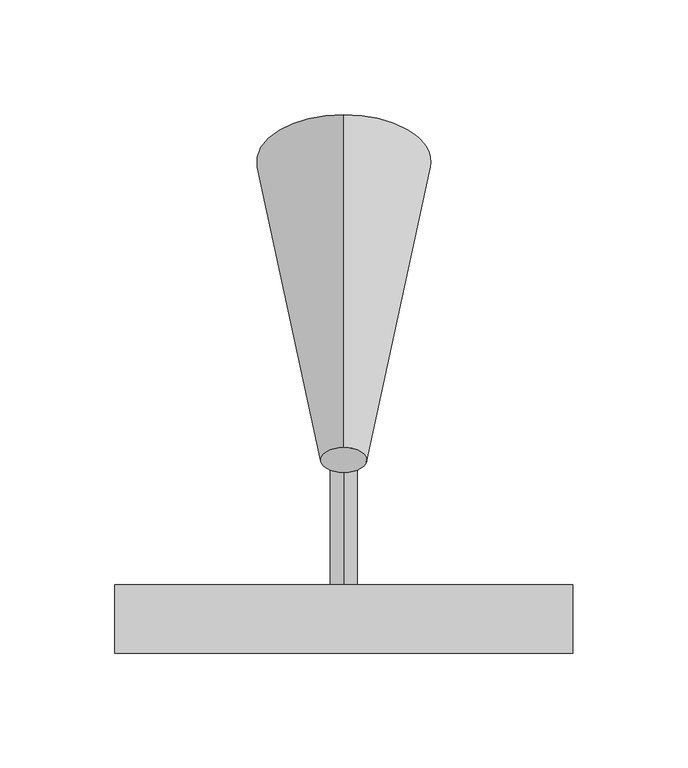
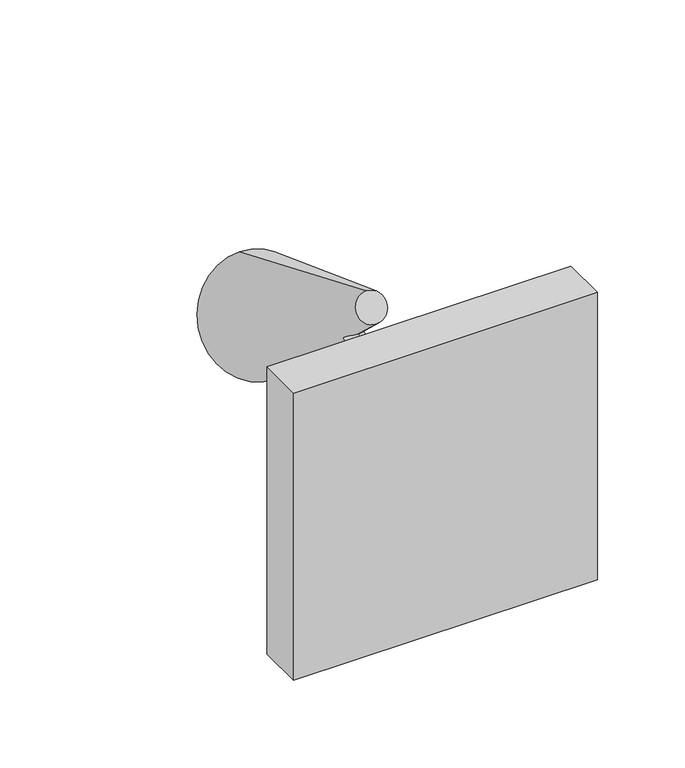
"""IFC4 building model written with IfcOpenShell, lengths in millimetres: proxy geometry, Videoüberwachungsanlage : Videoüberwachungsanlage."""

from ifc_helpers import new_model, si_unit, point, frame, origin, origin_2d, place, context, project, spatial, polyline, circle_curve, trimmed, segment, composite_curve, outline, extrude, source, transform, mapped, element, save
from ifc_brep_helpers import plane_surface, revolved_surface, advanced_brep


def electrical_fixtures_3000d69f(model_context):
    return source(origin(), model_context, "Body", "SolidModel", [
        extrude(outline(polyline([(100.0, 0.0), (-100.0, 0.0), (-100.0, 30.0), (100.0, 30.0), (100.0, 0.0)])), frame((0.0, 0.0, 1800.0), z_axis=(0.0, 0.0, 1.0), x_axis=(1.0, 0.0, 0.0)), (0.0, 0.0, 1.0), 200.0),
        extrude(outline(composite_curve([segment(trimmed(circle_curve(origin_2d(), 6.0), [point((0.0, -6.0))], [point((0.0, 6.0))], False, "CARTESIAN"), True, "CONTINUOUS"), segment(trimmed(circle_curve(origin_2d(), 6.0), [point((0.0, 6.0))], [point((0.0, -6.0))], False, "CARTESIAN"), True, "CONTINUOUS")], self_intersect=False)), frame((0.0, 14.5357096, 1900.0), z_axis=(0.0, 0.9063077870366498, 0.42261826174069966), x_axis=(-1.0, 0.0, 0.0)), (0.0, 0.0, 1.0), 118.0),
        advanced_brep(
        [(0.0, 193.6883639, 1857.0630731), (0.0, 235.0809306, 1920.8020363), (0.0, 78.9443189, 1964.9648994), (0.0, 89.8370996, 1981.7383108)],
        [
            (0, 1, circle_curve(frame((0.0, 214.3846473, 1888.9325547), z_axis=(0.0, 0.8386705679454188, -0.5446390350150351), x_axis=(0.0, 0.5446390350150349, 0.8386705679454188)), 38.0)),
            (1, 0, circle_curve(frame((0.0, 214.3846473, 1888.9325547), z_axis=(0.0, 0.8386705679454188, -0.5446390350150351), x_axis=(0.0, -0.5446390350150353, -0.8386705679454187)), 38.0)),
            (2, 3, circle_curve(frame((0.0, 84.3907092, 1973.3516051), z_axis=(0.0, -0.8386705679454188, 0.5446390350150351), x_axis=(0.0, -0.5446390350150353, -0.8386705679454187)), 10.0)),
            (3, 2, circle_curve(frame((0.0, 84.3907092, 1973.3516051), z_axis=(0.0, -0.8386705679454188, 0.5446390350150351), x_axis=(0.0, 0.5446390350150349, 0.8386705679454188)), 10.0)),
            (2, 0),
            (1, 3),
        ],
        [
            plane_surface(frame((0.0, 214.3846473, 1888.9325547), z_axis=(0.0, 0.8386705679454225, -0.5446390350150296), x_axis=(1.0, 0.0, 0.0))),
            plane_surface(frame((0.0, 84.3907092, 1973.3516051), z_axis=(0.0, -0.8386705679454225, 0.5446390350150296), x_axis=(1.0, 0.0, 0.0))),
            revolved_surface(polyline([(0.0, 78.94431887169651, 1964.964899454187), (0.0, 193.6883639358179, 1857.063073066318)]), (0.0, 37.9643028, 2003.501266), (0.0, 0.8386705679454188, -0.5446390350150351)),
            revolved_surface(polyline([(0.0, 89.83709957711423, 1981.738310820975), (0.0, 235.0809306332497, 1920.8020362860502)]), (0.0, 37.9643028, 2003.501266), (0.0, 0.8386705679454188, -0.5446390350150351)),
        ],
        [
            (0, [[1, 2]]),
            (1, [[3, 4]]),
            (2, [[5, -2, 6, -3]]),
            (3, [[-6, -1, -5, -4]]),
        ],
    ),
    ])


if __name__ == "__main__":
    model = new_model("IFC4")
    model_context = context("Model", 3, world=origin())
    ifc_project = project(units=[si_unit("LENGTHUNIT", "METRE", prefix="MILLI")], contexts=[model_context])
    site = spatial("IfcSite", under=ifc_project)
    building = spatial("IfcBuilding", under=site)
    placement = place(None, origin())
    electrical_fixtures_shape = electrical_fixtures_3000d69f(model_context)
    element("IfcBuildingElementProxy", 1, Name="Videoüberwachungsanlage : Videoüberwachungsanlage", ObjectType="Videoüberwachungsanlage : Videoüberwachungsanlage", at=placement, inside=building, context=model_context, shape_type="MappedRepresentation", body=[
        mapped(electrical_fixtures_shape, transform((0.0, 0.0, 0.0), x_axis=(1.0, 0.0, 0.0), y_axis=(0.0, 1.0, 0.0), z_axis=(0.0, 0.0, 1.0))),
    ])
    save(model, "model.ifc")
